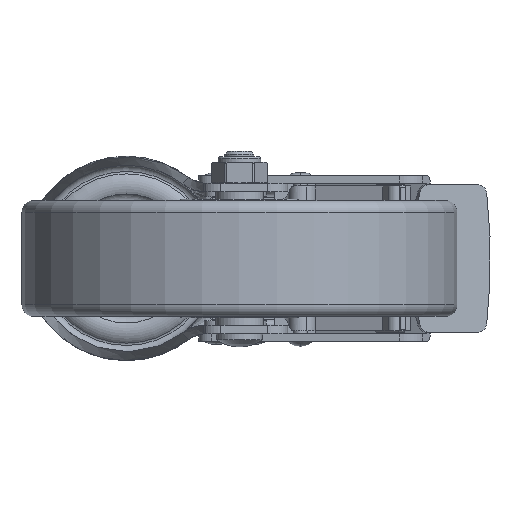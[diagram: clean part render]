
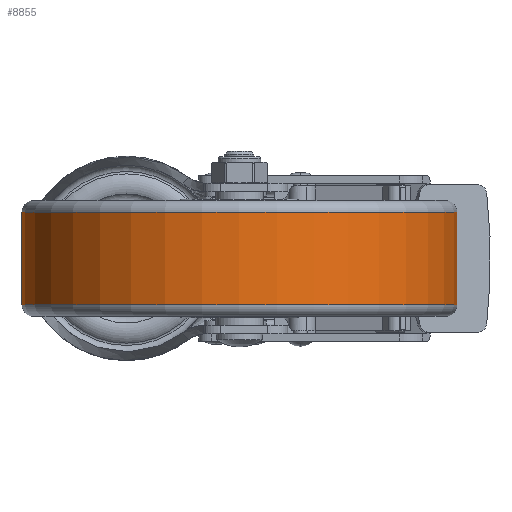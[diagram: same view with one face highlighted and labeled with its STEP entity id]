
A CAD part, front view. The second image highlights one B-rep face of the part: STEP entity #8855.
In plain terms, the highlighted cylindrical face has radius 75 mm (diameter 150 mm), a partial arc.
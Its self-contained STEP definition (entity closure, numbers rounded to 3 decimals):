
#8220=CARTESIAN_POINT('',(-16.,0.,0.));
#8221=DIRECTION('',(1.,0.,0.));
#8222=DIRECTION('',(0.,-1.,0.));
#8223=AXIS2_PLACEMENT_3D('',#8220,#8221,#8222);
#8235=DIRECTION('',(1.,0.,0.));
#8236=VECTOR('',#8235,32.);
#8237=CARTESIAN_POINT('',(-16.,75.,0.));
#8238=LINE('',#8237,#8236);
#8239=DIRECTION('',(1.,0.,0.));
#8240=VECTOR('',#8239,32.);
#8241=CARTESIAN_POINT('',(-16.,-75.,0.));
#8242=LINE('',#8241,#8240);
#8243=CARTESIAN_POINT('',(16.,0.,0.));
#8244=DIRECTION('',(-1.,0.,0.));
#8245=DIRECTION('',(0.,1.,0.));
#8246=AXIS2_PLACEMENT_3D('',#8243,#8244,#8245);
#8675=CARTESIAN_POINT('',(-16.,75.,0.));
#8676=VERTEX_POINT('',#8675);
#8677=CARTESIAN_POINT('',(-16.,-75.,0.));
#8678=VERTEX_POINT('',#8677);
#8679=CARTESIAN_POINT('',(16.,75.,0.));
#8680=VERTEX_POINT('',#8679);
#8681=CARTESIAN_POINT('',(16.,-75.,0.));
#8682=VERTEX_POINT('',#8681);
#8843=CARTESIAN_POINT('',(-22.,0.,0.));
#8844=DIRECTION('',(1.,0.,0.));
#8845=DIRECTION('',(0.,-1.,0.));
#8846=AXIS2_PLACEMENT_3D('',#8843,#8844,#8845);
#8847=CYLINDRICAL_SURFACE('',#8846,75.);
#8848=ORIENTED_EDGE('',*,*,#8833,.F.);
#8849=ORIENTED_EDGE('',*,*,#8810,.F.);
#8850=ORIENTED_EDGE('',*,*,#8837,.T.);
#8852=ORIENTED_EDGE('',*,*,#8851,.F.);
#8853=EDGE_LOOP('',(#8848,#8849,#8850,#8852));
#8854=FACE_OUTER_BOUND('',#8853,.F.);
#8224=CIRCLE('',#8223,75.);
#8247=CIRCLE('',#8246,75.);
#8810=EDGE_CURVE('',#8678,#8676,#8224,.T.);
#8833=EDGE_CURVE('',#8676,#8680,#8238,.T.);
#8837=EDGE_CURVE('',#8678,#8682,#8242,.T.);
#8851=EDGE_CURVE('',#8680,#8682,#8247,.T.);
#8855=ADVANCED_FACE('',(#8854),#8847,.T.);
